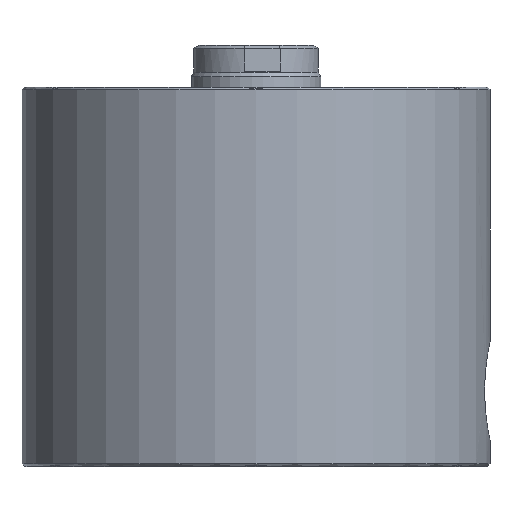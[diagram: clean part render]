
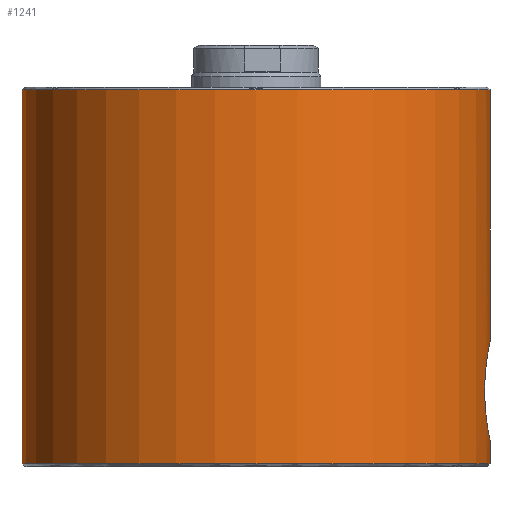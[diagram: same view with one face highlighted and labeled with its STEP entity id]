
A CAD part, front view. The second image highlights one B-rep face of the part: STEP entity #1241.
In plain terms, the highlighted cylindrical face has radius 45 mm (diameter 90 mm), a partial arc.
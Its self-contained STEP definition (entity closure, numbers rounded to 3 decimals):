
#35 = CARTESIAN_POINT ( 'NONE',  ( 0., 0., 73. ) ) ;
#67 = CARTESIAN_POINT ( 'NONE',  ( -45., 0., 0.5 ) ) ;
#87 = EDGE_CURVE ( 'NONE', #2610, #3787, #361, .T. ) ;
#120 = AXIS2_PLACEMENT_3D ( 'NONE', #3793, #3147, #2171 ) ;
#135 = ORIENTED_EDGE ( 'NONE', *, *, #2063, .T. ) ;
#174 = CARTESIAN_POINT ( 'NONE',  ( 45., -0.63, 5.092 ) ) ;
#203 = CARTESIAN_POINT ( 'NONE',  ( 44.429, -7.147, 20.858 ) ) ;
#226 = CARTESIAN_POINT ( 'NONE',  ( 44.186, -8.521, 18.804 ) ) ;
#252 = VECTOR ( 'NONE', #2863, 1000. ) ;
#283 = VERTEX_POINT ( 'NONE', #4255 ) ;
#361 = CIRCLE ( 'NONE', #3275, 45. ) ;
#444 = EDGE_CURVE ( 'NONE', #3928, #2280, #688, .T. ) ;
#445 = CARTESIAN_POINT ( 'NONE',  ( 44.271, -8.069, 9.569 ) ) ;
#466 = CARTESIAN_POINT ( 'NONE',  ( 44.16, -8.656, 18.519 ) ) ;
#472 = CARTESIAN_POINT ( 'NONE',  ( 45., 0., 24.092 ) ) ;
#487 = CARTESIAN_POINT ( 'NONE',  ( 44.748, -4.761, 22.819 ) ) ;
#509 = CARTESIAN_POINT ( 'NONE',  ( 44.659, -5.538, 6.867 ) ) ;
#531 = ORIENTED_EDGE ( 'NONE', *, *, #87, .T. ) ;
#549 = CARTESIAN_POINT ( 'NONE',  ( 45., 0., 24.092 ) ) ;
#603 = CARTESIAN_POINT ( 'NONE',  ( 45., -0.31, 24.092 ) ) ;
#651 = DIRECTION ( 'NONE',  ( 0., 0., -1. ) ) ;
#688 = B_SPLINE_CURVE_WITH_KNOTS ( 'NONE', 3,
 ( #3735, #174, #3115, #3755, #2120, #1799, #3411, #2831, #814, #509, #3434, #2505, #1469, #4156, #2783, #445, #1779, #3089, #3826, #859, #3136, #1490, #1446, #3503, #3806, #1871, #2763, #4104, #3457, #466, #226, #4083, #3183, #1143, #1822, #203, #1535, #1515, #2851, #1120, #487, #1095, #838, #2466, #2809, #3783, #2163, #3162, #603, #549 ),
 .UNSPECIFIED., .F., .F.,
 ( 4, 2, 2, 2, 2, 2, 2, 2, 2, 2, 2, 2, 2, 2, 2, 2, 2, 2, 2, 2, 2, 2, 2, 2, 4 ),
 ( 0., 0.002, 0.003, 0.004, 0.006, 0.007, 0.007, 0.009, 0.01, 0.011, 0.012, 0.013, 0.015, 0.017, 0.019, 0.02, 0.02, 0.021, 0.022, 0.024, 0.025, 0.026, 0.028, 0.029, 0.03 ),
 .UNSPECIFIED. ) ;
#721 = EDGE_CURVE ( 'NONE', #3800, #2280, #1063, .T. ) ;
#814 = CARTESIAN_POINT ( 'NONE',  ( 44.75, -4.764, 6.35 ) ) ;
#838 = CARTESIAN_POINT ( 'NONE',  ( 44.829, -3.927, 23.248 ) ) ;
#859 = CARTESIAN_POINT ( 'NONE',  ( 44.113, -8.893, 11.236 ) ) ;
#918 = DIRECTION ( 'NONE',  ( 1., 0., 0. ) ) ;
#992 = ORIENTED_EDGE ( 'NONE', *, *, #1067, .F. ) ;
#999 = ORIENTED_EDGE ( 'NONE', *, *, #721, .F. ) ;
#1014 = CYLINDRICAL_SURFACE ( 'NONE', #2996, 45. ) ;
#1063 = LINE ( 'NONE', #2390, #3684 ) ;
#1067 = EDGE_CURVE ( 'NONE', #3928, #3787, #1549, .T. ) ;
#1095 = CARTESIAN_POINT ( 'NONE',  ( 44.803, -4.211, 23.114 ) ) ;
#1120 = CARTESIAN_POINT ( 'NONE',  ( 44.719, -5.027, 22.659 ) ) ;
#1143 = CARTESIAN_POINT ( 'NONE',  ( 44.332, -7.725, 20.131 ) ) ;
#1177 = VECTOR ( 'NONE', #651, 1000. ) ;
#1241 = ADVANCED_FACE ( 'NONE', ( #2984 ), #1014, .T. ) ;
#1356 = CARTESIAN_POINT ( 'NONE',  ( 45., 0., 72.5 ) ) ;
#1367 = DIRECTION ( 'NONE',  ( 0., 0., -1. ) ) ;
#1446 = CARTESIAN_POINT ( 'NONE',  ( 44.038, -9.256, 12.429 ) ) ;
#1469 = CARTESIAN_POINT ( 'NONE',  ( 44.528, -6.501, 7.658 ) ) ;
#1490 = CARTESIAN_POINT ( 'NONE',  ( 44.054, -9.179, 12.123 ) ) ;
#1515 = CARTESIAN_POINT ( 'NONE',  ( 44.563, -6.275, 21.752 ) ) ;
#1531 = CARTESIAN_POINT ( 'NONE',  ( 45., 0., 73. ) ) ;
#1535 = CARTESIAN_POINT ( 'NONE',  ( 44.463, -6.937, 21.09 ) ) ;
#1537 = CARTESIAN_POINT ( 'NONE',  ( 0., 0., 0.5 ) ) ;
#1549 = LINE ( 'NONE', #1531, #252 ) ;
#1623 = ORIENTED_EDGE ( 'NONE', *, *, #3822, .T. ) ;
#1779 = CARTESIAN_POINT ( 'NONE',  ( 44.241, -8.231, 9.838 ) ) ;
#1799 = CARTESIAN_POINT ( 'NONE',  ( 44.897, -3.06, 5.593 ) ) ;
#1822 = CARTESIAN_POINT ( 'NONE',  ( 44.364, -7.541, 20.379 ) ) ;
#1871 = CARTESIAN_POINT ( 'NONE',  ( 43.986, -9.5, 15.21 ) ) ;
#2063 = EDGE_CURVE ( 'NONE', #3800, #283, #2469, .T. ) ;
#2120 = CARTESIAN_POINT ( 'NONE',  ( 44.934, -2.462, 5.412 ) ) ;
#2163 = CARTESIAN_POINT ( 'NONE',  ( 44.984, -1.245, 24.016 ) ) ;
#2171 = DIRECTION ( 'NONE',  ( 1., 0., 0. ) ) ;
#2280 = VERTEX_POINT ( 'NONE', #472 ) ;
#2390 = CARTESIAN_POINT ( 'NONE',  ( 45., 0., 73. ) ) ;
#2466 = CARTESIAN_POINT ( 'NONE',  ( 44.899, -3.066, 23.606 ) ) ;
#2469 = CIRCLE ( 'NONE', #120, 45. ) ;
#2505 = CARTESIAN_POINT ( 'NONE',  ( 44.562, -6.271, 7.45 ) ) ;
#2610 = VERTEX_POINT ( 'NONE', #67 ) ;
#2632 = EDGE_LOOP ( 'NONE', ( #999, #135, #1623, #531, #992, #3991 ) ) ;
#2662 = DIRECTION ( 'NONE',  ( 0., 0., -1. ) ) ;
#2763 = CARTESIAN_POINT ( 'NONE',  ( 43.999, -9.438, 15.842 ) ) ;
#2783 = CARTESIAN_POINT ( 'NONE',  ( 44.364, -7.549, 8.791 ) ) ;
#2809 = CARTESIAN_POINT ( 'NONE',  ( 44.936, -2.473, 23.786 ) ) ;
#2831 = CARTESIAN_POINT ( 'NONE',  ( 44.805, -4.219, 6.058 ) ) ;
#2851 = CARTESIAN_POINT ( 'NONE',  ( 44.628, -5.798, 22.144 ) ) ;
#2863 = DIRECTION ( 'NONE',  ( 0., 0., -1. ) ) ;
#2984 = FACE_OUTER_BOUND ( 'NONE', #2632, .T. ) ;
#2996 = AXIS2_PLACEMENT_3D ( 'NONE', #35, #2662, #3980 ) ;
#3089 = CARTESIAN_POINT ( 'NONE',  ( 44.186, -8.523, 10.385 ) ) ;
#3115 = CARTESIAN_POINT ( 'NONE',  ( 44.987, -1.248, 5.154 ) ) ;
#3136 = CARTESIAN_POINT ( 'NONE',  ( 44.091, -8.997, 11.528 ) ) ;
#3147 = DIRECTION ( 'NONE',  ( 0., 0., -1. ) ) ;
#3162 = CARTESIAN_POINT ( 'NONE',  ( 44.997, -0.622, 24.077 ) ) ;
#3183 = CARTESIAN_POINT ( 'NONE',  ( 44.271, -8.068, 19.617 ) ) ;
#3275 = AXIS2_PLACEMENT_3D ( 'NONE', #1537, #3885, #918 ) ;
#3411 = CARTESIAN_POINT ( 'NONE',  ( 44.876, -3.357, 5.7 ) ) ;
#3434 = CARTESIAN_POINT ( 'NONE',  ( 44.627, -5.789, 7.054 ) ) ;
#3457 = CARTESIAN_POINT ( 'NONE',  ( 44.089, -9.015, 17.655 ) ) ;
#3464 = CARTESIAN_POINT ( 'NONE',  ( 45., 0., 5.092 ) ) ;
#3503 = CARTESIAN_POINT ( 'NONE',  ( 43.999, -9.439, 13.349 ) ) ;
#3630 = CARTESIAN_POINT ( 'NONE',  ( -45., 0., 73. ) ) ;
#3684 = VECTOR ( 'NONE', #1367, 1000. ) ;
#3693 = LINE ( 'NONE', #3630, #1177 ) ;
#3735 = CARTESIAN_POINT ( 'NONE',  ( 45., 0., 5.092 ) ) ;
#3755 = CARTESIAN_POINT ( 'NONE',  ( 44.949, -2.161, 5.336 ) ) ;
#3783 = CARTESIAN_POINT ( 'NONE',  ( 44.974, -1.557, 23.969 ) ) ;
#3787 = VERTEX_POINT ( 'NONE', #3952 ) ;
#3793 = CARTESIAN_POINT ( 'NONE',  ( 0., 0., 72.5 ) ) ;
#3800 = VERTEX_POINT ( 'NONE', #1356 ) ;
#3806 = CARTESIAN_POINT ( 'NONE',  ( 43.986, -9.5, 13.967 ) ) ;
#3822 = EDGE_CURVE ( 'NONE', #283, #2610, #3693, .T. ) ;
#3826 = CARTESIAN_POINT ( 'NONE',  ( 44.16, -8.656, 10.665 ) ) ;
#3885 = DIRECTION ( 'NONE',  ( 0., 0., 1. ) ) ;
#3928 = VERTEX_POINT ( 'NONE', #3464 ) ;
#3952 = CARTESIAN_POINT ( 'NONE',  ( 45., 0., 0.5 ) ) ;
#3980 = DIRECTION ( 'NONE',  ( -1., 0., 0. ) ) ;
#3991 = ORIENTED_EDGE ( 'NONE', *, *, #444, .T. ) ;
#4083 = CARTESIAN_POINT ( 'NONE',  ( 44.242, -8.228, 19.352 ) ) ;
#4104 = CARTESIAN_POINT ( 'NONE',  ( 44.051, -9.195, 17.062 ) ) ;
#4156 = CARTESIAN_POINT ( 'NONE',  ( 44.43, -7.156, 8.314 ) ) ;
#4255 = CARTESIAN_POINT ( 'NONE',  ( -45., 0., 72.5 ) ) ;
